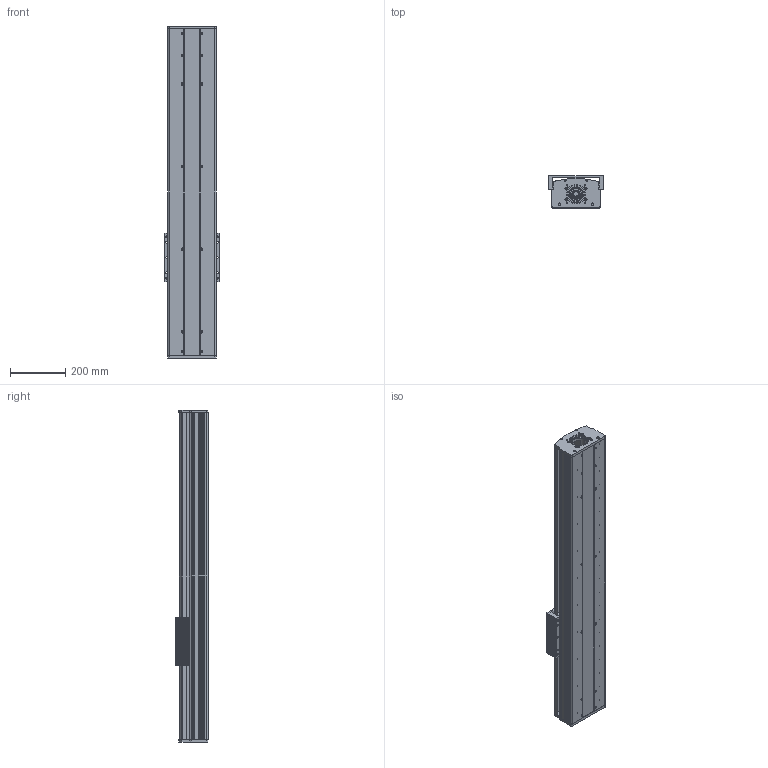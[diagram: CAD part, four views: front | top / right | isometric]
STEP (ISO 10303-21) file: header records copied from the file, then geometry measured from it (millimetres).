
FILE_DESCRIPTION (( 'STEP AP203' ), '1' );
FILE_NAME ('CF175-2-P850.STEP', '2016-02-23T08:10:28', ( 'Sky123.Org' ), ( 'Sky123.Org' ), 'SwSTEP 2.0', 'SolidWorks 2015', '' );
FILE_SCHEMA (( 'CONFIG_CONTROL_DESIGN' ));
Length unit declared in the file: millimetre
Products named in the file (13): Y1-CF175-2-P1200-1547臏倰第; Y1-HGR20-1500絳寢; CF-HGH20CA賑輸; CF175-2賑雄啣; SFU2505-4; 175-2梓袧嘐隅釱; X1-SFS2525-1185; 175-2侜督80萇儂釱; 175-2耜啣; CF175-2-P850; 175-2盓傅釱; CF175-2蹟譫釱; Y1-CF175-2-P1200-1547裔啣
Assembly tree (16 placements, depth 2):
  CF175-2-P850
    CF-HGH20CA賑輸  x4
    SFU2505-4
    X1-SFS2525-1185
    175-2耜啣
    175-2盓傅釱
    CF175-2蹟譫釱
    Y1-CF175-2-P1200-1547裔啣
    Y1-CF175-2-P1200-1547臏倰第
    Y1-HGR20-1500絳寢  x2
    CF175-2賑雄啣
    175-2梓袧嘐隅釱
    175-2侜督80萇儂釱
Bounding box: 200 x 116.8 x 1205 mm (x, y, z)
Volume: 9458065.5 mm3; surface area: 2541175.9 mm2
Topology: 20 solids, 20 shells, 1480 faces, 3906 edges, 2588 vertices
Faces by surface type: cylinder 795, plane 661, cone 20, bspline 4
Entity records: 43766 total; most frequent: CARTESIAN_POINT 11482, DIRECTION 6716, ORIENTED_EDGE 6222, EDGE_CURVE 3111, AXIS2_PLACEMENT_3D 2535, VERTEX_POINT 2060, LINE 1646, VECTOR 1646
